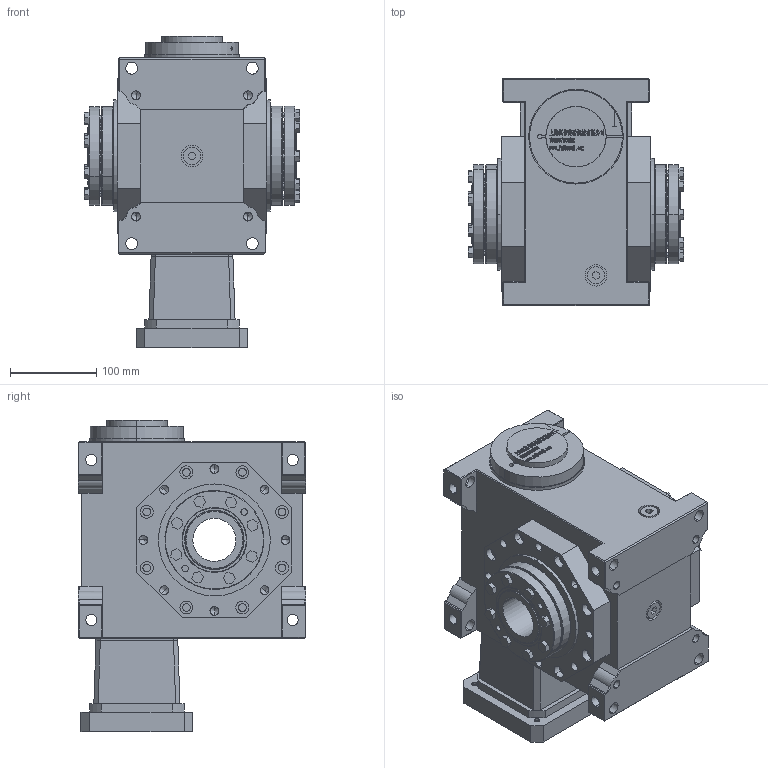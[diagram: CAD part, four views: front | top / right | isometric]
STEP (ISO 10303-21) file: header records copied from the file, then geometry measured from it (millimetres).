
FILE_DESCRIPTION (( 'STEP AP203' ), '1' );
FILE_NAME ('FXLB090-(5~90)-2C-22-110-145-M8.step', '2022-11-05T07:28:14', ( '' ), ( '' ), 'SwSTEP 2.0', 'SolidWorks 2020', '' );
FILE_SCHEMA (( 'CONFIG_CONTROL_DESIGN' ));
Length unit declared in the file: millimetre
Products named in the file (9): 錨璃284^FXLB090-(5~90)-2C-22-110-145-M8; FXLB090-(5~90)-2C-22-110-145-M8; JDLB090-2C________50.step; JDLB090-C1______-68-115-28.step; JDLB090-CR____.step; FXLB090-(5~90)-2C-22-110-145-M8.step; JDLB090-ST110________1.step; ST130-110-145-M8____________.step; ______BD68-73.3-24-22____.step
Assembly tree (9 placements, depth 3):
  FXLB090-(5~90)-2C-22-110-145-M8
    FXLB090-(5~90)-2C-22-110-145-M8.step
      JDLB090-CR____.step
      JDLB090-2C________50.step
      JDLB090-ST110________1.step
      ST130-110-145-M8____________.step
      ______BD68-73.3-24-22____.step
      JDLB090-C1______-68-115-28.step  x2
    錨璃284^FXLB090-(5~90)-2C-22-110-145-M8
Bounding box: 250 x 264 x 362.2 mm (x, y, z)
Volume: 10023059 mm3; surface area: 831712.1 mm2
Topology: 87 solids, 87 shells, 2875 faces, 7462 edges, 4863 vertices
Faces by surface type: plane 1664, bspline 572, cylinder 475, cone 112, torus 52
Entity records: 110586 total; most frequent: CARTESIAN_POINT 45838, ORIENTED_EDGE 14136, DIRECTION 11218, EDGE_CURVE 7068, LINE 4832, VECTOR 4832, VERTEX_POINT 4653, AXIS2_PLACEMENT_3D 3193
